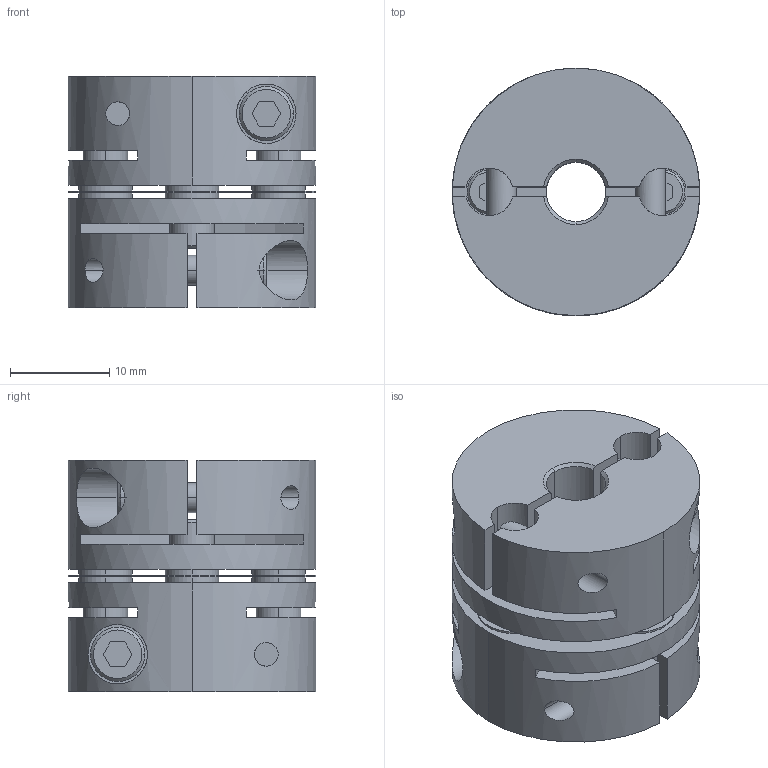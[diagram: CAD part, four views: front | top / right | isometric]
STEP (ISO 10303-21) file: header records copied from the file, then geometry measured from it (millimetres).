
FILE_DESCRIPTION((''),'2;1');
FILE_NAME('LAS-25C-6×6.stp','2011-08-10T10:16:51',(''),(''),'AutoCAD STEP 2000i','AutoCAD 2000i',', , ');
FILE_SCHEMA(('CONFIG_CONTROL_DESIGN'));
Length unit declared in the file: millimetre
Products named in the file (5): LAS-25C-6×6; 忣兜1; LA-2502-D06-1; LA-2502-D06; LAS25-ITA
Assembly tree (4 placements, depth 2):
  LAS-25C-6×6
    忣兜1
    LA-2502-D06-1
    LA-2502-D06
    LAS25-ITA
Bounding box: 25 x 25 x 23.4 mm (x, y, z)
Volume: 8864.2 mm3; surface area: 6937.2 mm2
Topology: 1 solids, 1 shells, 244 faces, 648 edges, 424 vertices
Faces by surface type: plane 112, cylinder 104, cone 28
Entity records: 8499 total; most frequent: CARTESIAN_POINT 2121, DIRECTION 1326, ORIENTED_EDGE 1296, EDGE_CURVE 648, AXIS2_PLACEMENT_3D 485, VERTEX_POINT 424, VECTOR 356, LINE 356
